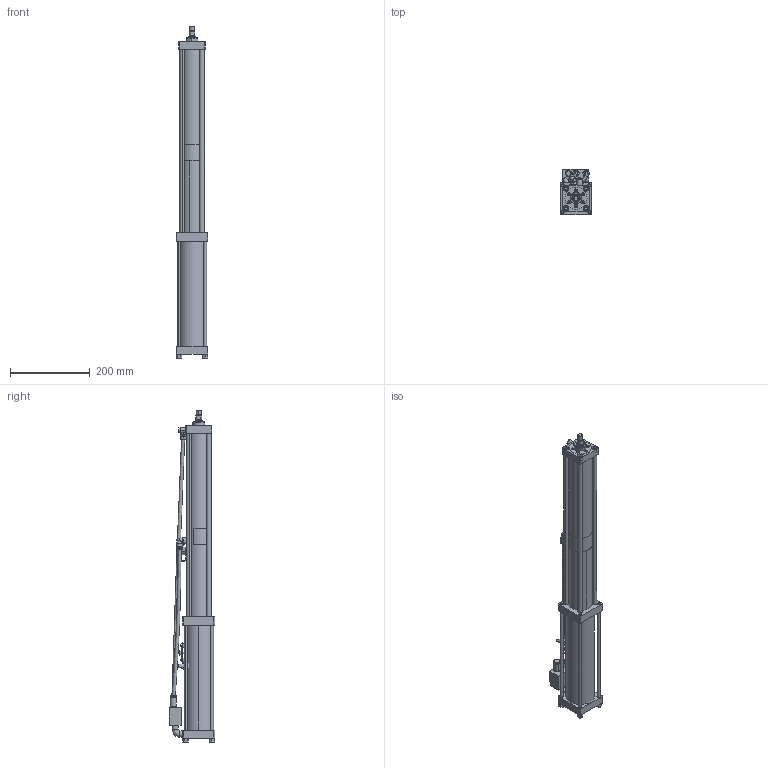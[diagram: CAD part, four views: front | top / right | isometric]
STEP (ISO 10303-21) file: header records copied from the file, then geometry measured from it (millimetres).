
FILE_DESCRIPTION (( 'STEP AP203' ), '1' );
FILE_NAME ('BS01-200-12S.step', '2025-07-31T09:39:18', ( 'Ranlm' ), ( '' ), 'SwSTEP 2.0', 'SolidWorks 2022', '' );
FILE_SCHEMA (( 'CONFIG_CONTROL_DESIGN' ));
Length unit declared in the file: millimetre
Products named in the file (1): BS01-200-12S
Bounding box: 80 x 114.5 x 835 mm (x, y, z)
Surface area: 372645.6 mm2 (no closed solid volume)
Topology: 0 solids, 52 shells, 503 faces, 1396 edges, 926 vertices
Faces by surface type: plane 218, cylinder 172, cone 77, torus 26, bspline 8, sphere 2
Entity records: 17673 total; most frequent: CARTESIAN_POINT 4615, DIRECTION 2901, ORIENTED_EDGE 2323, EDGE_CURVE 1388, AXIS2_PLACEMENT_3D 1101, VERTEX_POINT 924, LINE 699, VECTOR 699
